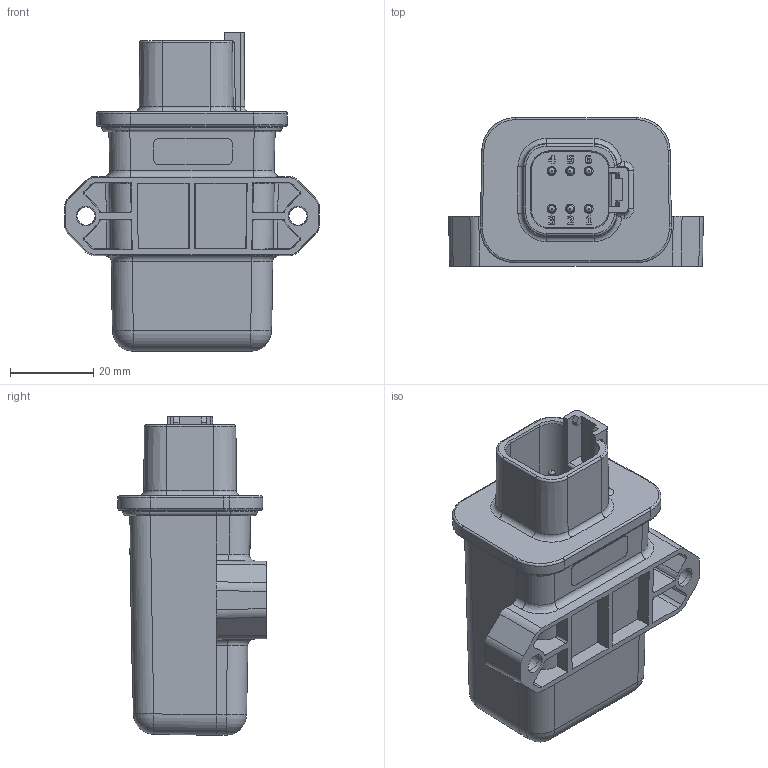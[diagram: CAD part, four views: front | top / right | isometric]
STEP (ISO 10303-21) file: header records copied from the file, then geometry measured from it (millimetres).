
FILE_DESCRIPTION(/* description */ (''),/* implementation_level */ '2;1');
FILE_NAME(/* name */ 'S:\Projects\CAN-BT-LW, AX141155, Proj_22021\UNIT ASSEMBLY\RELEASED\P1\AX141155.stp',/* time_stamp */ '2023-07-11T15:04:49-04:00',/* author */ ('tfisher'),/* organization */ (''),/* preprocessor_version */ 'ST-DEVELOPER v18.1',/* originating_system */ 'Autodesk Inventor 2021',/* authorisation */ '');
FILE_SCHEMA (('AUTOMOTIVE_DESIGN { 1 0 10303 214 3 1 1 }'));
Products named in the file (1): FG-AX141155_Shrinkwrap_1
Bounding box: 61.29 x 35.75 x 76.7 mm (x, y, z)
Volume: 22923.7 mm3; surface area: 26676.9 mm2
Topology: 1 solids, 1 shells, 2199 faces, 5583 edges, 3533 vertices
Faces by surface type: plane 1258, bspline 530, cylinder 300, sphere 50, torus 32, cone 29
Full cylindrical faces by diameter (mm): 1.5 x2, 1.562 x18, 1.6 x6, 1.8 x2, 2.184 x6, 2.5 x3, 4.75 x2
Entity records: 84963 total; most frequent: CARTESIAN_POINT 32632, ORIENTED_EDGE 11146, DIRECTION 8872, EDGE_CURVE 5573, LINE 3634, VECTOR 3634, VERTEX_POINT 3533, AXIS2_PLACEMENT_3D 2619
